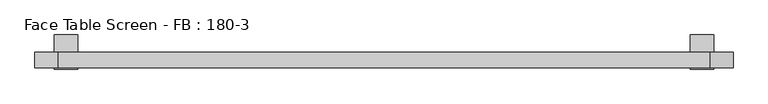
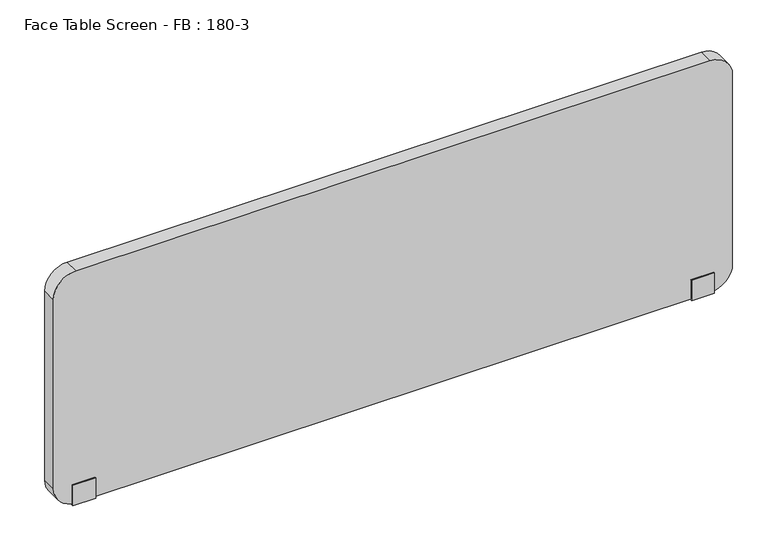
"""IFC4 building model written with IfcOpenShell, lengths in millimetres: furniture geometry, Face Table Screen - FB : 180-3."""

from ifc_helpers import new_model, si_unit, point, frame, frame_2d, origin, place, context, project, spatial, polyline, circle_curve, trimmed, segment, composite_curve, outline, extrude, source, transform, mapped, element, save


def face_table_screen_fb_180_3_5f4fbdf1(model_context):
    return source(origin(), model_context, "Body", "SweptSolid", [
        extrude(outline(polyline([(-42.9999947, -156.0), (-42.9999997, -99.0433898), (-40.0, -99.0433898), (-40.0, -153.0), (0.0, -153.0), (0.0, -22.0), (45.0, -22.0), (45.0, -25.0433898), (3.0000062, -25.0433898), (2.9999947, -156.0), (-42.9999947, -156.0)])), frame((809.9863751, 0.0, 0.0), z_axis=(1.0, 0.0, 0.0), x_axis=(0.0, 1.0, 0.0)), (0.0, 0.0, 1.0), 60.0),
        extrude(outline(polyline([(-42.9999947, -156.0), (-42.9999997, -99.0433898), (-40.0, -99.0433898), (-40.0, -153.0), (0.0, -153.0), (0.0, -22.0), (45.0, -22.0), (45.0, -25.0433898), (3.0000062, -25.0433898), (2.9999947, -156.0), (-42.9999947, -156.0)])), frame((-830.0136249, 0.0, 0.0), z_axis=(1.0, 0.0, 0.0), x_axis=(0.0, 1.0, 0.0)), (0.0, 0.0, 1.0), 60.0),
        extrude(outline(composite_curve([segment(polyline([(497.0, 859.9863751), (497.0, -820.0136249)]), True, "CONTINUOUS"), segment(trimmed(circle_curve(frame_2d((437.0, -820.0136249)), 60.0), [point((497.0, -820.0136249))], [point((437.0, -880.0136249))], False, "CARTESIAN"), True, "CONTINUOUS"), segment(polyline([(437.0, -880.0136249), (-93.0, -880.0136249)]), True, "CONTINUOUS"), segment(trimmed(circle_curve(frame_2d((-93.0, -820.0136249)), 60.0), [point((-93.0, -880.0136249))], [point((-153.0, -820.0136249))], False, "CARTESIAN"), True, "CONTINUOUS"), segment(polyline([(-153.0, -820.0136249), (-153.0, 859.9863751)]), True, "CONTINUOUS"), segment(trimmed(circle_curve(frame_2d((-93.0, 859.9863751)), 60.0), [point((-153.0, 859.9863751))], [point((-93.0, 919.9863751))], False, "CARTESIAN"), True, "CONTINUOUS"), segment(polyline([(-93.0, 919.9863751), (437.0, 919.9863751)]), True, "CONTINUOUS"), segment(trimmed(circle_curve(frame_2d((437.0, 859.9863751)), 60.0), [point((437.0, 919.9863751))], [point((497.0, 859.9863751))], False, "CARTESIAN"), True, "CONTINUOUS")], self_intersect=False)), frame((0.0, -40.0, 0.0), z_axis=(0.0, 1.0, 0.0), x_axis=(0.0, 0.0, 1.0)), (0.0, 0.0, 1.0), 40.0),
    ])


if __name__ == "__main__":
    model = new_model("IFC4")
    model_context = context("Model", 3, world=origin())
    ifc_project = project(units=[si_unit("LENGTHUNIT", "METRE", prefix="MILLI")], contexts=[model_context])
    site = spatial("IfcSite", under=ifc_project)
    building = spatial("IfcBuilding", under=site)
    placement = place(None, origin())
    face_table_screen_fb_180_3_shape = face_table_screen_fb_180_3_5f4fbdf1(model_context)
    element("IfcFurniture", 1, ObjectType="Face Table Screen - FB : 180-3", at=placement, inside=building, context=model_context, shape_type="MappedRepresentation", body=[
        mapped(face_table_screen_fb_180_3_shape, transform((0.0, 0.0, 0.0), x_axis=(1.0, 0.0, 0.0), y_axis=(0.0, 1.0, 0.0), z_axis=(0.0, 0.0, 1.0))),
    ])
    save(model, "model.ifc")
